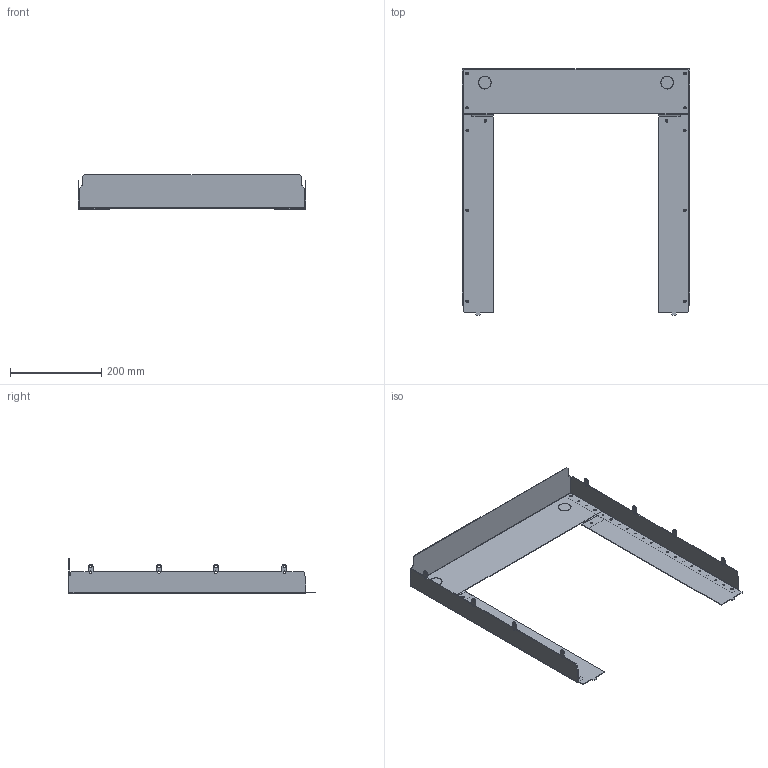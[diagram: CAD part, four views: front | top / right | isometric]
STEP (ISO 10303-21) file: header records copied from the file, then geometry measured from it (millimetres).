
FILE_DESCRIPTION(('CAx-IF Rec.Pracs.---Model Styling and Organization---1.2---2011-12-15','CAx-IF Rec.Pracs.---Geometric and Assembly Validation Properties---4.1---2014-06-16','CAx-IF Rec.Pracs.---PMI Polyline Presentation---2.0---2013-05-24'),'2;1');
FILE_NAME('R5FRC7V61522F.stp','2021-07-29T02:05:40+03:00',(''),(''),'STEP Interface 4.4 by CT CoreTechnologie','3D_Evolution4.4 by CT CoreTechnologie','');
FILE_SCHEMA(('AUTOMOTIVE_DESIGN { 1 0 10303 214 1 1 1 1 }'));
Length unit declared in the file: millimetre
Products named in the file (1): R5FRC6V61522F
Bounding box: 500 x 540 x 76.5 mm (x, y, z)
Surface area: 437670.2 mm2 (no closed solid volume)
Topology: 0 solids, 7 shells, 347 faces, 977 edges, 644 vertices
Faces by surface type: cylinder 186, plane 161
Entity records: 11637 total; most frequent: DIRECTION 2045, CARTESIAN_POINT 1969, ORIENTED_EDGE 1954, EDGE_CURVE 977, AXIS2_PLACEMENT_3D 720, VERTEX_POINT 644, VECTOR 605, LINE 605
